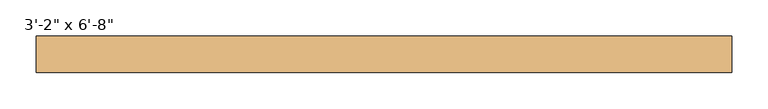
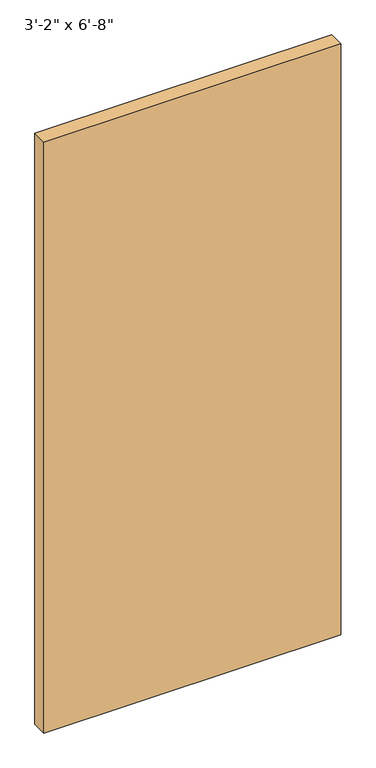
"""IFC4 building model written with IfcOpenShell, lengths in millimetres: door geometry."""

from ifc_helpers import new_model, si_unit, origin, origin_with_axes, place, context, project, spatial, polyline, outline, extrude, source, transform, mapped, element, save


def door_5effc919(model_context):
    return source(origin(), model_context, "Body", "SweptSolid", [
        extrude(outline(polyline([(482.6, -88.7015625), (482.6, -139.7), (-482.6, -139.7), (-482.6, -88.7015625), (482.6, -88.7015625)])), origin_with_axes(), (0.0, 0.0, 1.0), 2032.0),
    ])


if __name__ == "__main__":
    model = new_model("IFC4")
    model_context = context("Model", 3, world=origin())
    ifc_project = project(units=[si_unit("LENGTHUNIT", "METRE", prefix="MILLI")], contexts=[model_context])
    site = spatial("IfcSite", under=ifc_project)
    building = spatial("IfcBuilding", under=site)
    placement = place(None, origin())
    door_shape = door_5effc919(model_context)
    element("IfcDoor", 1, ObjectType="Planitar - Single Door_Flush Panel : 3'-2\" x 6'-8\"", at=placement, inside=building, context=model_context, shape_type="MappedRepresentation", body=[
        mapped(door_shape, transform((0.0, 0.0, 0.0), x_axis=(1.0, 0.0, 0.0), y_axis=(0.0, 1.0, 0.0), z_axis=(0.0, 0.0, 1.0))),
    ])
    save(model, "model.ifc")
